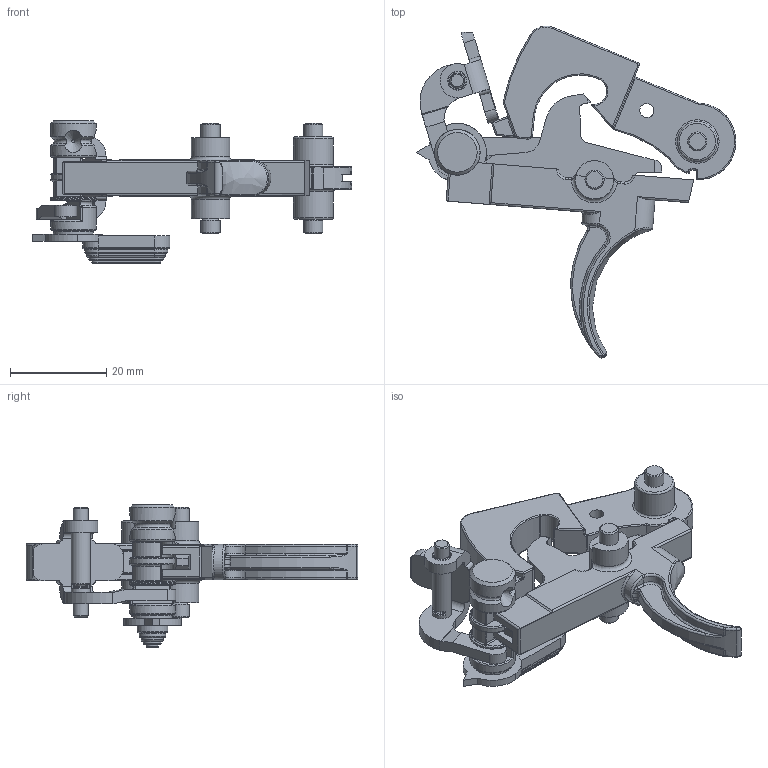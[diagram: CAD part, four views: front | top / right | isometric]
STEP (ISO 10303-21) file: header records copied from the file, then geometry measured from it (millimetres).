
FILE_DESCRIPTION(/* description */ (''),/* implementation_level */ '2;1');
FILE_NAME(/* name */ 'D:\Downloads\M16 FCG\step\M16 FCG Fosscad Full Auto Cocked.stp',/* time_stamp */ '2019-01-20T20:14:42-06:00',/* author */ ('johne'),/* organization */ (''),/* preprocessor_version */ 'ST-DEVELOPER v16.13',/* originating_system */ 'Autodesk Inventor 2018',/* authorisation */ '');
FILE_SCHEMA (('AUTOMOTIVE_DESIGN { 1 0 10303 214 3 1 1 }'));
Length unit declared in the file: inch
Products named in the file (9): M16 FCG Fosscad; M16 Disco V2; Selector M16 V2; Auto Sear; Auto Trigger; M16 Hammer V6; Auto Sear Pin; Auto Sear Bushing; Hammer Pin
Assembly tree (9 placements, depth 2):
  M16 FCG Fosscad
    M16 Disco V2
    Selector M16 V2
    Auto Sear
    Auto Trigger
    M16 Hammer V6
    Auto Sear Pin
    Auto Sear Bushing
    Hammer Pin  x2
Bounding box: 66.54 x 69.11 x 29.74 mm (x, y, z)
Volume: 12147.6 mm3; surface area: 11227.7 mm2
Topology: 10 solids, 10 shells, 591 faces, 1439 edges, 856 vertices
Faces by surface type: cylinder 206, plane 173, torus 101, bspline 70, sphere 25, cone 16
Full cylindrical faces by diameter (mm): 2.946 x1, 3.023 x1, 3.124 x3, 3.188 x1, 3.95 x2, 3.962 x3, 3.969 x6, 4.013 x2, 4.216 x1, 7.986 x2, 8.255 x1, 8.28 x2, 9.474 x4
Entity records: 26117 total; most frequent: CARTESIAN_POINT 12580, DIRECTION 2848, ORIENTED_EDGE 2680, EDGE_CURVE 1340, AXIS2_PLACEMENT_3D 1142, VERTEX_POINT 831, EDGE_LOOP 659, FACE_OUTER_BOUND 582
